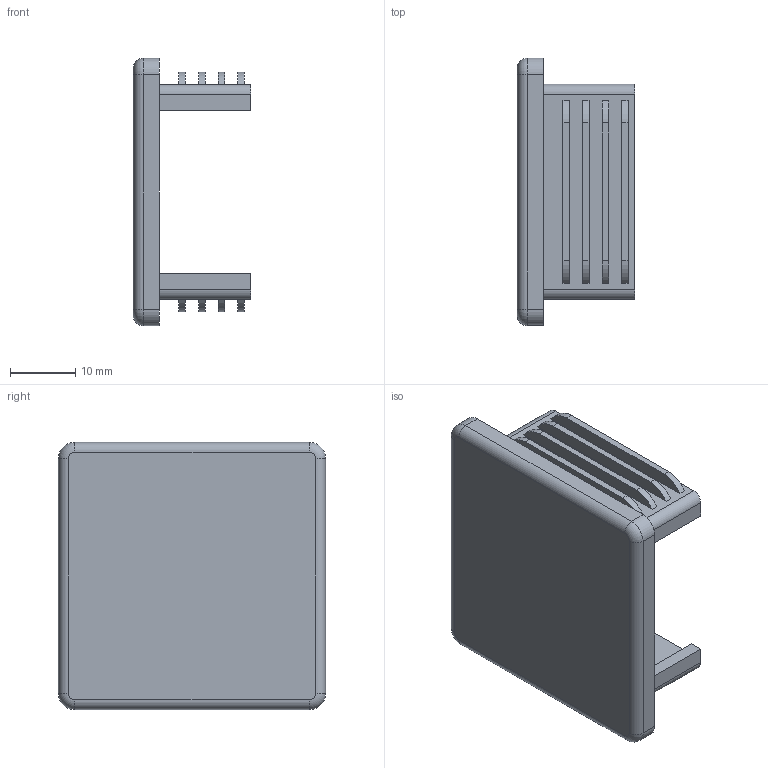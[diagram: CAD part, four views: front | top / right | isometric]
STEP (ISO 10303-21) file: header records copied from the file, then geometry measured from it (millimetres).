
FILE_DESCRIPTION (( 'STEP AP203' ), '1' );
FILE_NAME ('3D-R6690_41x41_173487620.STEP', '2024-08-28T11:40:47', ( '' ), ( '' ), 'SwSTEP 2.0', 'SolidWorks 2024', '' );
FILE_SCHEMA (( 'CONFIG_CONTROL_DESIGN' ));
Length unit declared in the file: millimetre
Products named in the file (1): 3D-R6690_41x41_173487620
Bounding box: 18 x 41 x 41 mm (x, y, z)
Volume: 9066.8 mm3; surface area: 6817.1 mm2
Topology: 1 solids, 1 shells, 84 faces, 208 edges, 136 vertices
Faces by surface type: plane 48, cylinder 32, torus 4
Entity records: 2573 total; most frequent: DIRECTION 446, CARTESIAN_POINT 429, ORIENTED_EDGE 416, EDGE_CURVE 208, AXIS2_PLACEMENT_3D 153, VECTOR 140, LINE 140, VERTEX_POINT 136
